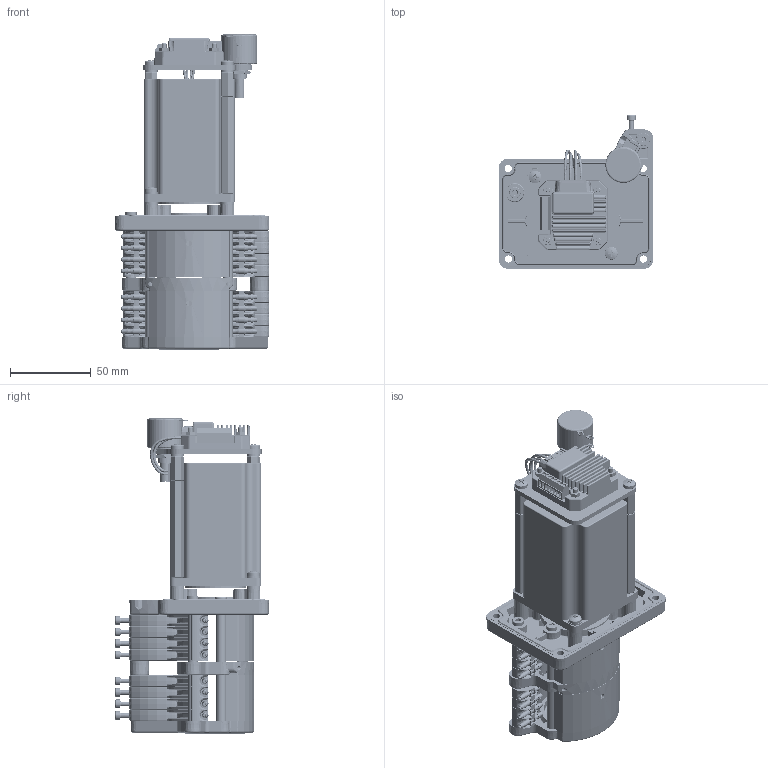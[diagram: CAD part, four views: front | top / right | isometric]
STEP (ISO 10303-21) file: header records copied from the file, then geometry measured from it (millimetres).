
FILE_DESCRIPTION (( 'STEP AP214' ), '1' );
FILE_NAME ('Assy_6K6002_A4p_R00.STEP', '2026-09-24T12:39:15', ( '' ), ( '' ), 'SwSTEP 2.0', 'SolidWorks 2021', '' );
FILE_SCHEMA (( 'AUTOMOTIVE_DESIGN' ));
Length unit declared in the file: millimetre
Products named in the file (1): Assy_6K6002_A4p_R00
Bounding box: 95.89 x 95.23 x 194.9 mm (x, y, z)
Volume: 395917.3 mm3; surface area: 153440.5 mm2
Topology: 17 solids, 19 shells, 5692 faces, 13529 edges, 8007 vertices
Faces by surface type: plane 1896, cylinder 1543, bspline 1016, cone 602, torus 394, sphere 241
Full cylindrical faces by diameter (mm): 1.5 x8, 1.6 x2, 1.65 x2, 1.8 x16, 2 x4, 2.2 x8, 2.4 x2, 2.5 x1, 2.7 x4, 3 x20, 3.2 x4, 4.5 x4, 5 x8, 5.5 x8, 6.05 x6, 6.1 x10, 6.33 x1, 7 x7, 7.5 x4, 7.96 x1, 8 x6, 8.55 x4, 8.6 x1, 9.35 x1, 10 x2, 10.5 x1, 10.805 x1, 14.22 x1, 22.22 x1, 24.168 x1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
Entity records: 201449 total; most frequent: CARTESIAN_POINT 83324, ORIENTED_EDGE 26076, DIRECTION 22249, EDGE_CURVE 13038, AXIS2_PLACEMENT_3D 8496, VERTEX_POINT 7877, EDGE_LOOP 6291, FACE_OUTER_BOUND 5911
